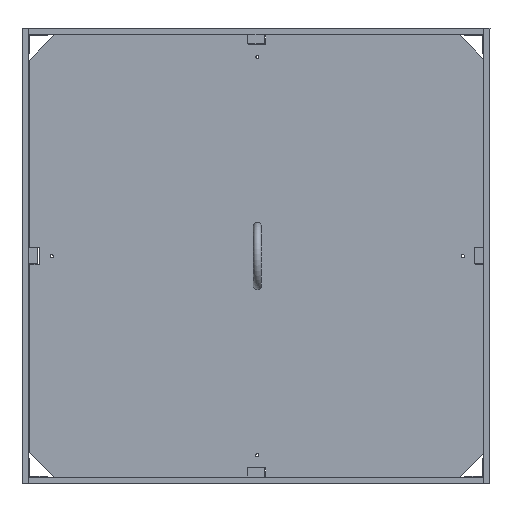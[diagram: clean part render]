
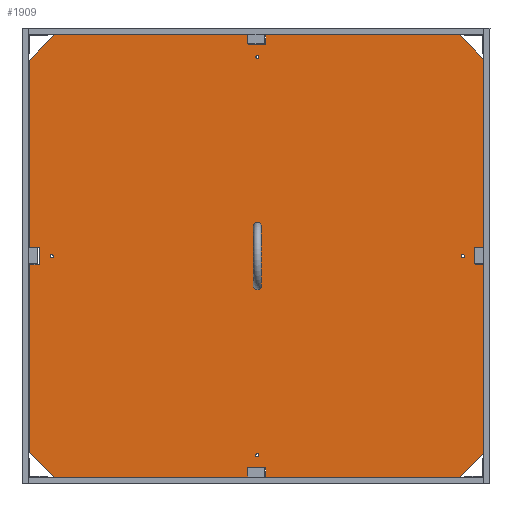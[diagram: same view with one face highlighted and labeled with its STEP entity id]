
A CAD part, top view. The second image highlights one B-rep face of the part: STEP entity #1909.
In plain terms, the highlighted planar face has unit normal (0, 0, 1) as drawn and (0, 0, -1) by its records, which use the part's own axes.
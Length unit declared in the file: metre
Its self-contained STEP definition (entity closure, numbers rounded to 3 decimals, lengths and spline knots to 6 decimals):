
#173=PLANE('',#2168);
#281=LINE('',#3095,#445);
#285=LINE('',#3104,#449);
#310=LINE('',#3165,#474);
#313=LINE('',#3171,#477);
#316=LINE('',#3189,#480);
#317=LINE('',#3192,#481);
#318=LINE('',#3194,#482);
#319=LINE('',#3196,#483);
#320=LINE('',#3198,#484);
#321=LINE('',#3200,#485);
#322=LINE('',#3201,#486);
#323=LINE('',#3203,#487);
#324=LINE('',#3205,#488);
#325=LINE('',#3207,#489);
#326=LINE('',#3209,#490);
#327=LINE('',#3210,#491);
#328=LINE('',#3211,#492);
#329=LINE('',#3213,#493);
#330=LINE('',#3215,#494);
#331=LINE('',#3217,#495);
#332=LINE('',#3219,#496);
#333=LINE('',#3220,#497);
#334=LINE('',#3222,#498);
#335=LINE('',#3224,#499);
#445=VECTOR('',#2568,1.);
#449=VECTOR('',#2574,1.);
#474=VECTOR('',#2615,1.);
#477=VECTOR('',#2620,1.);
#480=VECTOR('',#2637,1.);
#481=VECTOR('',#2638,1.);
#482=VECTOR('',#2639,1.);
#483=VECTOR('',#2640,1.);
#484=VECTOR('',#2641,1.);
#485=VECTOR('',#2642,1.);
#486=VECTOR('',#2643,1.);
#487=VECTOR('',#2644,1.);
#488=VECTOR('',#2645,1.);
#489=VECTOR('',#2646,1.);
#490=VECTOR('',#2647,1.);
#491=VECTOR('',#2648,1.);
#492=VECTOR('',#2649,1.);
#493=VECTOR('',#2650,1.);
#494=VECTOR('',#2651,1.);
#495=VECTOR('',#2652,1.);
#496=VECTOR('',#2653,1.);
#497=VECTOR('',#2654,1.);
#498=VECTOR('',#2655,1.);
#499=VECTOR('',#2656,1.);
#842=ORIENTED_EDGE('',*,*,#1164,.T.);
#843=ORIENTED_EDGE('',*,*,#1165,.T.);
#844=ORIENTED_EDGE('',*,*,#1166,.T.);
#845=ORIENTED_EDGE('',*,*,#1167,.T.);
#846=ORIENTED_EDGE('',*,*,#1168,.T.);
#847=ORIENTED_EDGE('',*,*,#1169,.T.);
#848=ORIENTED_EDGE('',*,*,#1170,.T.);
#849=ORIENTED_EDGE('',*,*,#1171,.T.);
#850=ORIENTED_EDGE('',*,*,#1172,.F.);
#851=ORIENTED_EDGE('',*,*,#1173,.T.);
#852=ORIENTED_EDGE('',*,*,#1174,.F.);
#853=ORIENTED_EDGE('',*,*,#1175,.F.);
#854=ORIENTED_EDGE('',*,*,#1127,.F.);
#855=ORIENTED_EDGE('',*,*,#1176,.F.);
#856=ORIENTED_EDGE('',*,*,#1177,.F.);
#857=ORIENTED_EDGE('',*,*,#1178,.T.);
#858=ORIENTED_EDGE('',*,*,#1179,.F.);
#859=ORIENTED_EDGE('',*,*,#1180,.F.);
#860=ORIENTED_EDGE('',*,*,#1123,.F.);
#861=ORIENTED_EDGE('',*,*,#1181,.F.);
#862=ORIENTED_EDGE('',*,*,#1158,.T.);
#863=ORIENTED_EDGE('',*,*,#1182,.T.);
#864=ORIENTED_EDGE('',*,*,#1183,.T.);
#865=ORIENTED_EDGE('',*,*,#1184,.F.);
#866=ORIENTED_EDGE('',*,*,#1185,.T.);
#867=ORIENTED_EDGE('',*,*,#1186,.T.);
#868=ORIENTED_EDGE('',*,*,#1161,.T.);
#869=ORIENTED_EDGE('',*,*,#1187,.T.);
#870=ORIENTED_EDGE('',*,*,#1188,.T.);
#871=ORIENTED_EDGE('',*,*,#1189,.F.);
#1123=EDGE_CURVE('',#1320,#1322,#281,.T.);
#1127=EDGE_CURVE('',#1324,#1326,#285,.T.);
#1158=EDGE_CURVE('',#1354,#1355,#310,.T.);
#1161=EDGE_CURVE('',#1356,#1357,#313,.T.);
#1164=EDGE_CURVE('',#1358,#1358,#1448,.T.);
#1165=EDGE_CURVE('',#1359,#1359,#1449,.T.);
#1166=EDGE_CURVE('',#1360,#1360,#1450,.T.);
#1167=EDGE_CURVE('',#1361,#1361,#1451,.T.);
#1168=EDGE_CURVE('',#1362,#1362,#1452,.T.);
#1169=EDGE_CURVE('',#1363,#1363,#1453,.T.);
#1170=EDGE_CURVE('',#1364,#1365,#316,.T.);
#1171=EDGE_CURVE('',#1365,#1366,#317,.T.);
#1172=EDGE_CURVE('',#1367,#1366,#318,.T.);
#1173=EDGE_CURVE('',#1367,#1368,#319,.T.);
#1174=EDGE_CURVE('',#1369,#1368,#320,.T.);
#1175=EDGE_CURVE('',#1326,#1369,#321,.T.);
#1176=EDGE_CURVE('',#1370,#1324,#322,.T.);
#1177=EDGE_CURVE('',#1371,#1370,#323,.T.);
#1178=EDGE_CURVE('',#1371,#1372,#324,.T.);
#1179=EDGE_CURVE('',#1373,#1372,#325,.T.);
#1180=EDGE_CURVE('',#1322,#1373,#326,.T.);
#1181=EDGE_CURVE('',#1354,#1320,#327,.T.);
#1182=EDGE_CURVE('',#1355,#1374,#328,.T.);
#1183=EDGE_CURVE('',#1374,#1375,#329,.T.);
#1184=EDGE_CURVE('',#1376,#1375,#330,.T.);
#1185=EDGE_CURVE('',#1376,#1377,#331,.T.);
#1186=EDGE_CURVE('',#1377,#1356,#332,.T.);
#1187=EDGE_CURVE('',#1357,#1378,#333,.T.);
#1188=EDGE_CURVE('',#1378,#1379,#334,.T.);
#1189=EDGE_CURVE('',#1364,#1379,#335,.T.);
#1320=VERTEX_POINT('',#3093);
#1322=VERTEX_POINT('',#3096);
#1324=VERTEX_POINT('',#3102);
#1326=VERTEX_POINT('',#3105);
#1354=VERTEX_POINT('',#3166);
#1355=VERTEX_POINT('',#3167);
#1356=VERTEX_POINT('',#3172);
#1357=VERTEX_POINT('',#3173);
#1358=VERTEX_POINT('',#3178);
#1359=VERTEX_POINT('',#3180);
#1360=VERTEX_POINT('',#3182);
#1361=VERTEX_POINT('',#3184);
#1362=VERTEX_POINT('',#3186);
#1363=VERTEX_POINT('',#3188);
#1364=VERTEX_POINT('',#3190);
#1365=VERTEX_POINT('',#3191);
#1366=VERTEX_POINT('',#3193);
#1367=VERTEX_POINT('',#3195);
#1368=VERTEX_POINT('',#3197);
#1369=VERTEX_POINT('',#3199);
#1370=VERTEX_POINT('',#3202);
#1371=VERTEX_POINT('',#3204);
#1372=VERTEX_POINT('',#3206);
#1373=VERTEX_POINT('',#3208);
#1374=VERTEX_POINT('',#3212);
#1375=VERTEX_POINT('',#3214);
#1376=VERTEX_POINT('',#3216);
#1377=VERTEX_POINT('',#3218);
#1378=VERTEX_POINT('',#3221);
#1379=VERTEX_POINT('',#3223);
#1448=CIRCLE('',#2169,0.004018);
#1449=CIRCLE('',#2170,0.004018);
#1450=CIRCLE('',#2171,0.001613);
#1451=CIRCLE('',#2172,0.001613);
#1452=CIRCLE('',#2173,0.001613);
#1453=CIRCLE('',#2174,0.001613);
#1585=EDGE_LOOP('',(#842));
#1586=EDGE_LOOP('',(#843));
#1587=EDGE_LOOP('',(#844));
#1588=EDGE_LOOP('',(#845));
#1589=EDGE_LOOP('',(#846));
#1590=EDGE_LOOP('',(#847));
#1591=EDGE_LOOP('',(#848,#849,#850,#851,#852,#853,#854,#855,#856,#857,#858,
#859,#860,#861,#862,#863,#864,#865,#866,#867,#868,#869,#870,#871));
#1761=FACE_BOUND('',#1585,.T.);
#1762=FACE_BOUND('',#1586,.T.);
#1763=FACE_BOUND('',#1587,.T.);
#1764=FACE_BOUND('',#1588,.T.);
#1765=FACE_BOUND('',#1589,.T.);
#1766=FACE_BOUND('',#1590,.T.);
#1767=FACE_BOUND('',#1591,.T.);
#1909=ADVANCED_FACE('',(#1761,#1762,#1763,#1764,#1765,#1766,#1767),#173,
 .F.);
#2168=AXIS2_PLACEMENT_3D('',#3176,#2623,#2624);
#2169=AXIS2_PLACEMENT_3D('',#3177,#2625,#2626);
#2170=AXIS2_PLACEMENT_3D('',#3179,#2627,#2628);
#2171=AXIS2_PLACEMENT_3D('',#3181,#2629,#2630);
#2172=AXIS2_PLACEMENT_3D('',#3183,#2631,#2632);
#2173=AXIS2_PLACEMENT_3D('',#3185,#2633,#2634);
#2174=AXIS2_PLACEMENT_3D('',#3187,#2635,#2636);
#2568=DIRECTION('',(0.,-1.,0.));
#2574=DIRECTION('',(1.,0.,0.));
#2615=DIRECTION('',(1.,0.,0.));
#2620=DIRECTION('',(0.,-1.,0.));
#2623=DIRECTION('',(0.,0.,1.));
#2624=DIRECTION('',(1.,0.,0.));
#2625=DIRECTION('',(0.,0.,1.));
#2626=DIRECTION('',(1.,0.,0.));
#2627=DIRECTION('',(0.,0.,1.));
#2628=DIRECTION('',(1.,0.,0.));
#2629=DIRECTION('',(0.,0.,1.));
#2630=DIRECTION('',(1.,0.,0.));
#2631=DIRECTION('',(0.,0.,1.));
#2632=DIRECTION('',(1.,0.,0.));
#2633=DIRECTION('',(0.,0.,1.));
#2634=DIRECTION('',(1.,0.,0.));
#2635=DIRECTION('',(0.,0.,1.));
#2636=DIRECTION('',(1.,0.,0.));
#2637=DIRECTION('',(0.,-1.,0.));
#2638=DIRECTION('',(-0.707,-0.707,0.));
#2639=DIRECTION('',(1.,0.,0.));
#2640=DIRECTION('',(0.,1.,0.));
#2641=DIRECTION('',(1.,0.,0.));
#2642=DIRECTION('',(0.,1.,0.));
#2643=DIRECTION('',(0.707,-0.707,0.));
#2644=DIRECTION('',(0.,-1.,0.));
#2645=DIRECTION('',(1.,0.,0.));
#2646=DIRECTION('',(0.,-1.,0.));
#2647=DIRECTION('',(1.,0.,0.));
#2648=DIRECTION('',(-0.707,-0.707,0.));
#2649=DIRECTION('',(0.,-1.,0.));
#2650=DIRECTION('',(1.,0.,0.));
#2651=DIRECTION('',(0.,-1.,0.));
#2652=DIRECTION('',(1.,0.,0.));
#2653=DIRECTION('',(0.707,-0.707,0.));
#2654=DIRECTION('',(-1.,0.,0.));
#2655=DIRECTION('',(0.,-1.,0.));
#2656=DIRECTION('',(-1.,0.,0.));
#3093=CARTESIAN_POINT('',(-0.22225,0.2032,0.));
#3095=CARTESIAN_POINT('',(-0.22225,0.,0.));
#3096=CARTESIAN_POINT('',(-0.22225,0.008588,0.));
#3102=CARTESIAN_POINT('',(-0.19685,-0.2286,0.));
#3104=CARTESIAN_POINT('',(0.,-0.2286,0.));
#3105=CARTESIAN_POINT('',(-0.008588,-0.2286,0.));
#3165=CARTESIAN_POINT('',(0.,0.2286,0.));
#3166=CARTESIAN_POINT('',(-0.19685,0.2286,0.));
#3167=CARTESIAN_POINT('',(-0.008588,0.2286,0.));
#3171=CARTESIAN_POINT('',(0.22225,0.,0.));
#3172=CARTESIAN_POINT('',(0.22225,0.2032,0.));
#3173=CARTESIAN_POINT('',(0.22225,0.008588,0.));
#3176=CARTESIAN_POINT('',(0.,0.,0.));
#3177=CARTESIAN_POINT('',(-0.029766,0.,0.));
#3178=CARTESIAN_POINT('',(-0.025747,0.,0.));
#3179=CARTESIAN_POINT('',(0.029766,0.,0.));
#3180=CARTESIAN_POINT('',(0.033784,0.,0.));
#3181=CARTESIAN_POINT('',(-0.200025,0.,0.));
#3182=CARTESIAN_POINT('',(-0.198412,0.,0.));
#3183=CARTESIAN_POINT('',(0.200025,0.,0.));
#3184=CARTESIAN_POINT('',(0.201638,0.,0.));
#3185=CARTESIAN_POINT('',(0.,0.206375,0.));
#3186=CARTESIAN_POINT('',(0.001613,0.206375,0.));
#3187=CARTESIAN_POINT('',(0.,-0.206375,0.));
#3188=CARTESIAN_POINT('',(0.001613,-0.206375,0.));
#3189=CARTESIAN_POINT('',(0.22225,0.,0.));
#3190=CARTESIAN_POINT('',(0.22225,-0.008588,0.));
#3191=CARTESIAN_POINT('',(0.22225,-0.2032,0.));
#3192=CARTESIAN_POINT('',(0.212725,-0.212725,0.));
#3193=CARTESIAN_POINT('',(0.19685,-0.2286,0.));
#3194=CARTESIAN_POINT('',(0.,-0.2286,0.));
#3195=CARTESIAN_POINT('',(0.008588,-0.2286,0.));
#3196=CARTESIAN_POINT('',(0.008588,0.,0.));
#3197=CARTESIAN_POINT('',(0.008588,-0.218821,0.));
#3198=CARTESIAN_POINT('',(0.,-0.218821,0.));
#3199=CARTESIAN_POINT('',(-0.008588,-0.218821,0.));
#3200=CARTESIAN_POINT('',(-0.008588,0.,0.));
#3201=CARTESIAN_POINT('',(-0.212725,-0.212725,0.));
#3202=CARTESIAN_POINT('',(-0.22225,-0.2032,0.));
#3203=CARTESIAN_POINT('',(-0.22225,0.,0.));
#3204=CARTESIAN_POINT('',(-0.22225,-0.008588,0.));
#3205=CARTESIAN_POINT('',(0.,-0.008588,0.));
#3206=CARTESIAN_POINT('',(-0.212471,-0.008588,0.));
#3207=CARTESIAN_POINT('',(-0.212471,0.,0.));
#3208=CARTESIAN_POINT('',(-0.212471,0.008588,0.));
#3209=CARTESIAN_POINT('',(0.,0.008588,0.));
#3210=CARTESIAN_POINT('',(-0.212725,0.212725,0.));
#3211=CARTESIAN_POINT('',(-0.008588,0.,0.));
#3212=CARTESIAN_POINT('',(-0.008588,0.218821,0.));
#3213=CARTESIAN_POINT('',(0.,0.218821,0.));
#3214=CARTESIAN_POINT('',(0.008588,0.218821,0.));
#3215=CARTESIAN_POINT('',(0.008588,0.,0.));
#3216=CARTESIAN_POINT('',(0.008588,0.2286,0.));
#3217=CARTESIAN_POINT('',(0.,0.2286,0.));
#3218=CARTESIAN_POINT('',(0.19685,0.2286,0.));
#3219=CARTESIAN_POINT('',(0.212725,0.212725,0.));
#3220=CARTESIAN_POINT('',(0.,0.008588,0.));
#3221=CARTESIAN_POINT('',(0.212471,0.008588,0.));
#3222=CARTESIAN_POINT('',(0.212471,0.,0.));
#3223=CARTESIAN_POINT('',(0.212471,-0.008588,0.));
#3224=CARTESIAN_POINT('',(0.,-0.008588,0.));
